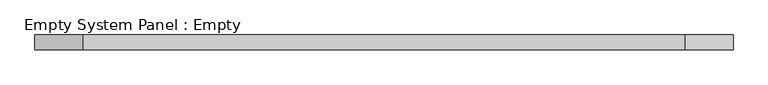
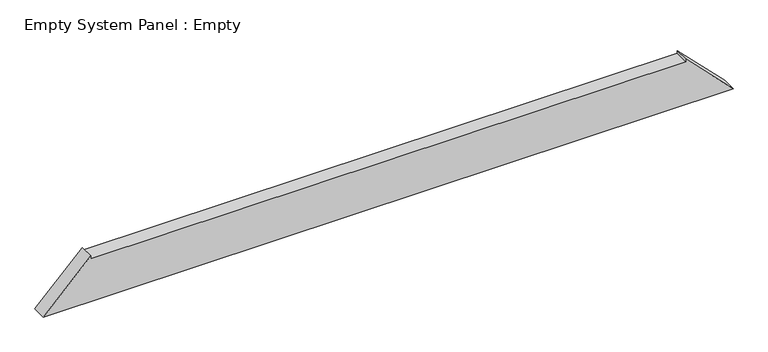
"""IFC4 building model written with IfcOpenShell, lengths in millimetres: plate geometry, Empty System Panel : Empty."""

import ifcopenshell
import ifcopenshell.guid

model = None  # the IFC model being written
_history = None  # IfcOwnerHistory: only IFC2X3 demands one
_inside = {}  # id of a spatial element -> (the spatial element, [elements in it])
_under = {}  # id of a project, library or spatial element -> (it, [spatial elements below it])
_declared = {}  # id of a project -> (the project, [libraries it declares])
_typed = {}  # id of a type object -> (the type object, [elements of that type])
_made_of = {}  # id of a material, layer set ... -> (it, [elements and type objects made of it])


def new_model(schema):
    """Start an empty IFC model of exactly this schema.

    Asked for "IFC4X3", IfcOpenShell would pick the latest addendum, in which some entities
    have other attributes; the version numbers below select the first issue.
    IFC2X3 requires an IfcOwnerHistory on every rooted entity: one is made here for all.
    """
    global model, _history
    if schema == "IFC4X3":
        model = ifcopenshell.file(schema_version=(4, 3, 0, 0))
    else:
        model = ifcopenshell.file(schema=schema)
    _inside.clear()
    _under.clear()
    _declared.clear()
    _typed.clear()
    _made_of.clear()
    _history = None
    if model.schema == "IFC2X3":
        org = make("IfcOrganization", Name="unknown")
        user = make(
            "IfcPersonAndOrganization",
            ThePerson=make("IfcPerson", FamilyName="unknown"),
            TheOrganization=org,
        )
        app = make(
            "IfcApplication",
            ApplicationDeveloper=org,
            Version="unknown",
            ApplicationFullName="unknown",
            ApplicationIdentifier="unknown",
        )
        _history = make(
            "IfcOwnerHistory",
            OwningUser=user,
            OwningApplication=app,
            ChangeAction="ADDED",
            CreationDate=0,
        )
    return model


def make(cls, **values):
    """One entity of the class cls with the attributes given. An attribute that is None is left unset."""
    return model.create_entity(
        cls, **{name: value for name, value in values.items() if value is not None}
    )


def rooted(cls, **values):
    """An entity with a GlobalId (a new one), such as an element, a storey or a relation."""
    return make(cls, GlobalId=ifcopenshell.guid.new(), OwnerHistory=_history, **values)


def si_unit(unit_type, name, prefix=None):
    """IfcSIUnit, for example si_unit("LENGTHUNIT", "METRE", prefix="MILLI")."""
    return make("IfcSIUnit", UnitType=unit_type, Prefix=prefix, Name=name)


def assignment(units):
    """IfcUnitAssignment: the units of a project."""
    return None if units is None else make("IfcUnitAssignment", Units=units)


def point(xyz):
    """IfcCartesianPoint."""
    return None if xyz is None else make("IfcCartesianPoint", Coordinates=xyz)


def direction(xyz):
    """IfcDirection."""
    return None if xyz is None else make("IfcDirection", DirectionRatios=xyz)


def frame(location, z_axis=None, x_axis=None):
    """IfcAxis2Placement3D, a coordinate frame: its origin and axes. An axis left out is left unset."""
    return make(
        "IfcAxis2Placement3D",
        Location=point(location),
        Axis=direction(z_axis),
        RefDirection=direction(x_axis),
    )


def origin():
    """The frame at (0, 0, 0) with its axes left unset."""
    return frame((0.0, 0.0, 0.0))


def place(relative_to, where):
    """IfcLocalPlacement: puts the frame where relative to a parent placement (None: the world)."""
    return make(
        "IfcLocalPlacement", PlacementRelTo=relative_to, RelativePlacement=where
    )


def context(
    kind, dimensions, precision=None, world=None, true_north=None, identifier=None
):
    """IfcGeometricRepresentationContext, for example the 3D "Model" context."""
    return make(
        "IfcGeometricRepresentationContext",
        ContextIdentifier=identifier,
        ContextType=kind,
        CoordinateSpaceDimension=dimensions,
        Precision=precision,
        WorldCoordinateSystem=world,
        TrueNorth=true_north,
    )


def project(units=None, contexts=None):
    """IfcProject with its units and contexts."""
    return rooted(
        "IfcProject",
        Name="project",
        RepresentationContexts=contexts,
        UnitsInContext=assignment(units),
    )


def spatial(cls, under=None, at=None, **own):
    """A site, building, storey or space (cls), placed at a placement, below another one or the project."""
    s = rooted(cls, ObjectPlacement=at, **own)
    if under is not None:
        _under.setdefault(under.id(), (under, []))[1].append(s)
    return s


def polyline(points):
    """IfcPolyline through the points."""
    return make("IfcPolyline", Points=[point(p) for p in points])


def outline(outer, holes=None, kind="AREA"):
    """IfcArbitraryClosedProfileDef: a profile drawn as a closed curve; with holes, ...WithVoids."""
    if holes is None:
        return make("IfcArbitraryClosedProfileDef", ProfileType=kind, OuterCurve=outer)
    return make(
        "IfcArbitraryProfileDefWithVoids",
        ProfileType=kind,
        OuterCurve=outer,
        InnerCurves=holes,
    )


def extrude(swept, where, along, depth):
    """IfcExtrudedAreaSolid: the profile swept, set in the frame where, extruded along a direction by depth."""
    return make(
        "IfcExtrudedAreaSolid",
        SweptArea=swept,
        Position=where,
        ExtrudedDirection=direction(along),
        Depth=depth,
    )


def shape(context_of_items, identifier, shape_type, items):
    """IfcShapeRepresentation: the items that make up one representation, for example the "Body"."""
    return make(
        "IfcShapeRepresentation",
        ContextOfItems=context_of_items,
        RepresentationIdentifier=identifier,
        RepresentationType=shape_type,
        Items=items,
    )


def source(mapping_origin, context_of_items, identifier, shape_type, items):
    """IfcRepresentationMap: a shape defined once, which mapped items show again and again."""
    return make(
        "IfcRepresentationMap",
        MappingOrigin=mapping_origin,
        MappedRepresentation=shape(context_of_items, identifier, shape_type, items),
    )


def transform(
    local_origin,
    x_axis=None,
    y_axis=None,
    z_axis=None,
    scale=None,
    scale2=None,
    scale3=None,
    uniform=True,
):
    """IfcCartesianTransformationOperator3D, or its non-uniform kind. x_axis, y_axis, z_axis: its Axis1, 2, 3."""
    if uniform:
        return make(
            "IfcCartesianTransformationOperator3D",
            Axis1=direction(x_axis),
            Axis2=direction(y_axis),
            LocalOrigin=point(local_origin),
            Scale=scale,
            Axis3=direction(z_axis),
        )
    return make(
        "IfcCartesianTransformationOperator3DnonUniform",
        Axis1=direction(x_axis),
        Axis2=direction(y_axis),
        LocalOrigin=point(local_origin),
        Scale=scale,
        Axis3=direction(z_axis),
        Scale2=scale2,
        Scale3=scale3,
    )


def mapped(mapping_source, mapping_target):
    """IfcMappedItem: shows the shape of a source again, moved by a transform."""
    return make(
        "IfcMappedItem", MappingSource=mapping_source, MappingTarget=mapping_target
    )


def made_of(thing, what):
    """Note that an element or type object is made of a material, layer set ...; save() writes the relation."""
    if what is not None:
        _made_of.setdefault(what.id(), (what, []))[1].append(thing)
    return thing


def element(
    cls,
    number,
    at=None,
    inside=None,
    cuts=None,
    type_object=None,
    material=None,
    context=None,
    identifier="Body",
    shape_type=None,
    held_by="IfcProductDefinitionShape",
    body=None,
    shapes=None,
    **own,
):
    """One element of the class cls, such as IfcWall. Its Tag is "e" and its number.

    at: its placement. inside: the storey or other place that contains it. cuts: it is an
    opening in that element (IfcRelVoidsElement). A single representation is given by context,
    identifier, shape_type and body (its items); several are given by shapes. held_by: the class
    of the entity that holds the representations. save() writes the other relations.
    """
    e = rooted(cls, Tag="e%d" % number, ObjectPlacement=at, **own)
    if body is not None:
        shapes = [shape(context, identifier, shape_type, body)]
    if shapes is not None:
        e.Representation = make(held_by, Representations=shapes)
    if inside is not None:
        _inside.setdefault(inside.id(), (inside, []))[1].append(e)
    if cuts is not None:
        rooted(
            "IfcRelVoidsElement", RelatingBuildingElement=cuts, RelatedOpeningElement=e
        )
    if type_object is not None:
        _typed.setdefault(type_object.id(), (type_object, []))[1].append(e)
    return made_of(e, material)


def aggregate(whole, parts):
    """IfcRelAggregates: a whole, such as a stair, and the parts it consists of."""
    return rooted("IfcRelAggregates", RelatingObject=whole, RelatedObjects=parts)


def save(model, path):
    """Write the relations noted so far, then the file.

    IfcRelAggregates (storeys below a building ...), IfcRelContainedInSpatialStructure (elements
    in a storey), IfcRelDefinesByType, IfcRelAssociatesMaterial and IfcRelDeclares: one each for
    every whole, place, type object, material and project.
    """
    for whole, parts in _under.values():
        aggregate(whole, parts)
    for where, things in _inside.values():
        rooted(
            "IfcRelContainedInSpatialStructure",
            RelatedElements=things,
            RelatingStructure=where,
        )
    for kind, things in _typed.values():
        rooted("IfcRelDefinesByType", RelatedObjects=things, RelatingType=kind)
    for what, things in _made_of.values():
        rooted("IfcRelAssociatesMaterial", RelatedObjects=things, RelatingMaterial=what)
    for by, libraries in _declared.values():
        rooted("IfcRelDeclares", RelatingContext=by, RelatedDefinitions=libraries)
    model.write(path)


def empty_system_panel_empty_bed88d9c(model_context):
    return source(origin(), model_context, "Body", "SweptSolid", [
        extrude(outline(polyline([(0.0, -2372.2253301), (0.0, 2372.2253301), (330.0, 2045.8763336), (310.0, 2045.8763336), (310.0, -2045.8763336), (330.0, -2045.8763336), (0.0, -2372.2253301)])), frame((0.0, -50.0, 0.0), z_axis=(0.0, 1.0, 0.0), x_axis=(0.0, 0.0, 1.0)), (0.0, 0.0, 1.0), 100.0),
    ])


if __name__ == "__main__":
    model = new_model("IFC4")
    model_context = context("Model", 3, world=origin())
    ifc_project = project(units=[si_unit("LENGTHUNIT", "METRE", prefix="MILLI")], contexts=[model_context])
    site = spatial("IfcSite", under=ifc_project)
    building = spatial("IfcBuilding", under=site)
    placement = place(None, origin())
    empty_system_panel_empty_shape = empty_system_panel_empty_bed88d9c(model_context)
    element("IfcPlate", 1, ObjectType="Empty System Panel : Empty", at=placement, inside=building, context=model_context, shape_type="MappedRepresentation", body=[
        mapped(empty_system_panel_empty_shape, transform((0.0, 0.0, 0.0), x_axis=(1.0, 0.0, 0.0), y_axis=(0.0, 1.0, 0.0), z_axis=(0.0, 0.0, 1.0))),
    ])
    save(model, "model.ifc")
